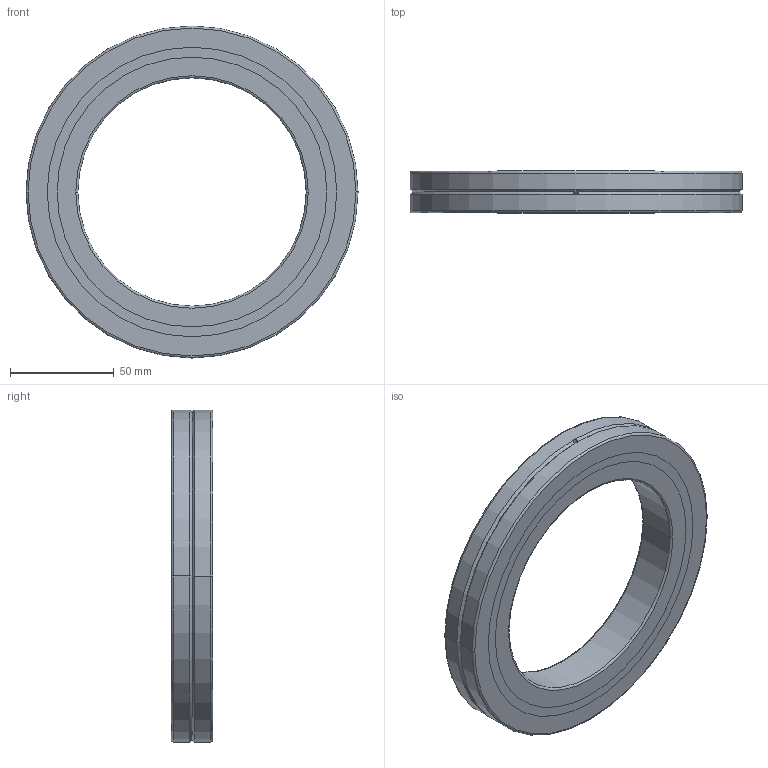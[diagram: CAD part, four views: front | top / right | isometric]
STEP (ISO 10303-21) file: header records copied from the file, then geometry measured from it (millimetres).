
FILE_DESCRIPTION(('starvars output'),'2;1');
FILE_NAME('cv20160920044726000003169.stp','04:47:27 2016/09/20',( 'Thomas Industrial Network Germany GmbH'),( 'Thomas Industrial Network Germany GmbH'),'unknown preprocess','ACIS' ,'unknown authorization');
FILE_SCHEMA(('AUTOMOTIVE_DESIGN_CC2 {UNKNOWN IMPLEMENTATION LEVEL}'));
Length unit declared in the file: millimetre
Products named in the file (1): PRODUCT_ID_1
Bounding box: 160 x 20 x 160 mm (x, y, z)
Volume: 200793.3 mm3; surface area: 74252.7 mm2
Topology: 1 solids, 1 shells, 524 faces, 1284 edges, 876 vertices
Faces by surface type: cylinder 368, plane 124, cone 24, torus 8
Entity records: 20993 total; most frequent: CARTESIAN_POINT 6254, ORIENTED_EDGE 2568, DIRECTION 1476, EDGE_CURVE 1284, VERTEX_POINT 876, EDGE_LOOP 756, FACE_BOUND 756, AXIS2_PLACEMENT_3D 542
